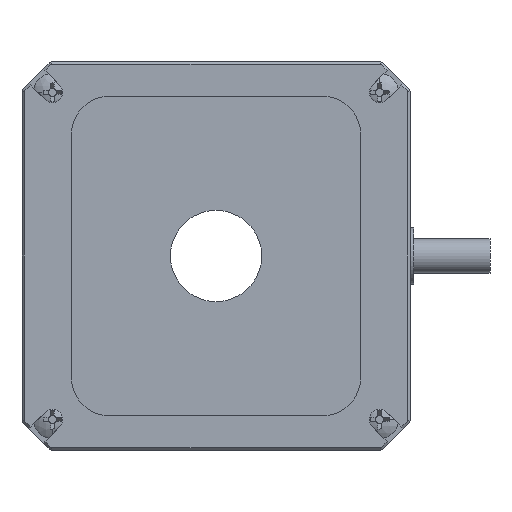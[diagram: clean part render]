
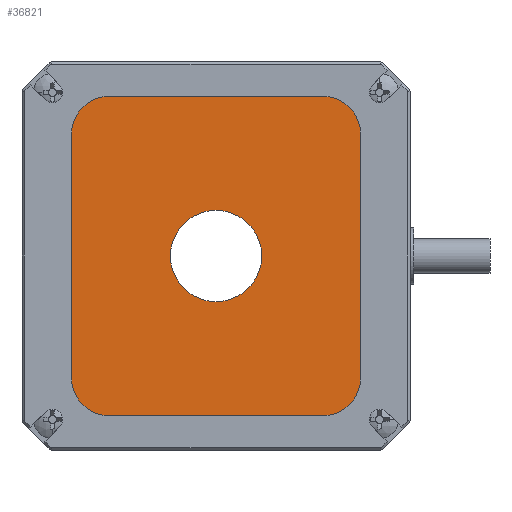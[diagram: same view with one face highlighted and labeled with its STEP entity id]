
A CAD part, front view. The second image highlights one B-rep face of the part: STEP entity #36821.
In plain terms, the highlighted planar face has unit normal (0, -1, 0).
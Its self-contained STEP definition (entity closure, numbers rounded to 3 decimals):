
#492 = CARTESIAN_POINT ( 'NONE',  ( -14., 0.2, 21. ) ) ;
#1181 = VECTOR ( 'NONE', #9567, 1000. ) ;
#1302 = DIRECTION ( 'NONE',  ( 0., 0., 1. ) ) ;
#2029 = VERTEX_POINT ( 'NONE', #492 ) ;
#2599 = DIRECTION ( 'NONE',  ( 0., 0., -1. ) ) ;
#4247 = AXIS2_PLACEMENT_3D ( 'NONE', #66175, #26682, #72762 ) ;
#4324 = CIRCLE ( 'NONE', #63729, 6. ) ;
#5115 = DIRECTION ( 'NONE',  ( 0., -1., 0. ) ) ;
#7712 = ORIENTED_EDGE ( 'NONE', *, *, #58043, .T. ) ;
#9567 = DIRECTION ( 'NONE',  ( -1., 0., 0. ) ) ;
#10361 = CARTESIAN_POINT ( 'NONE',  ( -19., 0.2, -16. ) ) ;
#11068 = CARTESIAN_POINT ( 'NONE',  ( 19., 0.2, 16. ) ) ;
#12774 = CARTESIAN_POINT ( 'NONE',  ( 14., 0.2, 16. ) ) ;
#14102 = CARTESIAN_POINT ( 'NONE',  ( 14., 0.2, -21. ) ) ;
#14162 = VECTOR ( 'NONE', #16793, 1000. ) ;
#15007 = CARTESIAN_POINT ( 'NONE',  ( 0., 0.2, 6. ) ) ;
#16158 = CARTESIAN_POINT ( 'NONE',  ( -19., 0.2, -21. ) ) ;
#16329 = DIRECTION ( 'NONE',  ( 0., -1., 0. ) ) ;
#16793 = DIRECTION ( 'NONE',  ( 0., 0., 1. ) ) ;
#18866 = VECTOR ( 'NONE', #77783, 1000. ) ;
#19062 = ORIENTED_EDGE ( 'NONE', *, *, #52263, .T. ) ;
#19455 = DIRECTION ( 'NONE',  ( 0., 0., 1. ) ) ;
#19639 = DIRECTION ( 'NONE',  ( 0., 1., 0. ) ) ;
#19797 = CIRCLE ( 'NONE', #32599, 5. ) ;
#23352 = AXIS2_PLACEMENT_3D ( 'NONE', #44616, #5115, #51241 ) ;
#26682 = DIRECTION ( 'NONE',  ( 0., -1., 0. ) ) ;
#27541 = CARTESIAN_POINT ( 'NONE',  ( 14., 0.2, 21. ) ) ;
#27657 = VERTEX_POINT ( 'NONE', #83393 ) ;
#29745 = EDGE_CURVE ( 'NONE', #67910, #40012, #59934, .T. ) ;
#31668 = LINE ( 'NONE', #49665, #14162 ) ;
#32391 = VERTEX_POINT ( 'NONE', #27541 ) ;
#32553 = PLANE ( 'NONE',  #35395 ) ;
#32599 = AXIS2_PLACEMENT_3D ( 'NONE', #80303, #40767, #1302 ) ;
#33067 = VECTOR ( 'NONE', #2599, 1000. ) ;
#33357 = AXIS2_PLACEMENT_3D ( 'NONE', #55796, #16329, #62441 ) ;
#34269 = VERTEX_POINT ( 'NONE', #82985 ) ;
#35395 = AXIS2_PLACEMENT_3D ( 'NONE', #59163, #19639, #65756 ) ;
#35829 = CARTESIAN_POINT ( 'NONE',  ( 19., 0.2, 21. ) ) ;
#36118 = ORIENTED_EDGE ( 'NONE', *, *, #29745, .F. ) ;
#36821 = ADVANCED_FACE ( 'NONE', ( #83760, #48702 ), #32553, .F. ) ;
#37504 = ORIENTED_EDGE ( 'NONE', *, *, #60463, .T. ) ;
#38090 = CARTESIAN_POINT ( 'NONE',  ( -19., 0.2, 16. ) ) ;
#38629 = VERTEX_POINT ( 'NONE', #11068 ) ;
#38716 = DIRECTION ( 'NONE',  ( 0., -1., 0. ) ) ;
#40012 = VERTEX_POINT ( 'NONE', #44204 ) ;
#40176 = EDGE_LOOP ( 'NONE', ( #7712, #66107, #49257, #50216, #61955, #19062, #37504, #74113 ) ) ;
#40767 = DIRECTION ( 'NONE',  ( 0., -1., 0. ) ) ;
#43826 = EDGE_LOOP ( 'NONE', ( #36118, #81602 ) ) ;
#44204 = CARTESIAN_POINT ( 'NONE',  ( 0., 0.2, -6. ) ) ;
#44616 = CARTESIAN_POINT ( 'NONE',  ( -14., 0.2, 16. ) ) ;
#46133 = EDGE_CURVE ( 'NONE', #40012, #67910, #4324, .T. ) ;
#46604 = EDGE_CURVE ( 'NONE', #32391, #2029, #75464, .T. ) ;
#48080 = VERTEX_POINT ( 'NONE', #14102 ) ;
#48702 = FACE_BOUND ( 'NONE', #43826, .T. ) ;
#49257 = ORIENTED_EDGE ( 'NONE', *, *, #62789, .T. ) ;
#49665 = CARTESIAN_POINT ( 'NONE',  ( 19., 0.2, -21. ) ) ;
#50216 = ORIENTED_EDGE ( 'NONE', *, *, #72900, .T. ) ;
#51241 = DIRECTION ( 'NONE',  ( 0., 0., 1. ) ) ;
#52263 = EDGE_CURVE ( 'NONE', #2029, #70727, #67063, .T. ) ;
#52711 = EDGE_CURVE ( 'NONE', #48080, #34269, #73230, .T. ) ;
#53178 = VERTEX_POINT ( 'NONE', #10361 ) ;
#53906 = LINE ( 'NONE', #64200, #18866 ) ;
#55796 = CARTESIAN_POINT ( 'NONE',  ( 14., 0.2, -16. ) ) ;
#56089 = AXIS2_PLACEMENT_3D ( 'NONE', #12774, #58986, #19455 ) ;
#58043 = EDGE_CURVE ( 'NONE', #27657, #48080, #53906, .T. ) ;
#58986 = DIRECTION ( 'NONE',  ( 0., -1., 0. ) ) ;
#59163 = CARTESIAN_POINT ( 'NONE',  ( 0., 0.2, 0. ) ) ;
#59934 = CIRCLE ( 'NONE', #4247, 6. ) ;
#60463 = EDGE_CURVE ( 'NONE', #70727, #53178, #68183, .T. ) ;
#61955 = ORIENTED_EDGE ( 'NONE', *, *, #46604, .T. ) ;
#62441 = DIRECTION ( 'NONE',  ( 0., 0., 1. ) ) ;
#62789 = EDGE_CURVE ( 'NONE', #34269, #38629, #31668, .T. ) ;
#63729 = AXIS2_PLACEMENT_3D ( 'NONE', #78296, #38716, #84893 ) ;
#64200 = CARTESIAN_POINT ( 'NONE',  ( 19., 0.2, -21. ) ) ;
#65756 = DIRECTION ( 'NONE',  ( 0., 0., 1. ) ) ;
#66107 = ORIENTED_EDGE ( 'NONE', *, *, #52711, .T. ) ;
#66161 = EDGE_CURVE ( 'NONE', #53178, #27657, #19797, .T. ) ;
#66175 = CARTESIAN_POINT ( 'NONE',  ( 0., 0.2, 0. ) ) ;
#67063 = CIRCLE ( 'NONE', #23352, 5. ) ;
#67910 = VERTEX_POINT ( 'NONE', #15007 ) ;
#68183 = LINE ( 'NONE', #16158, #33067 ) ;
#70727 = VERTEX_POINT ( 'NONE', #38090 ) ;
#72762 = DIRECTION ( 'NONE',  ( 0., 0., 1. ) ) ;
#72900 = EDGE_CURVE ( 'NONE', #38629, #32391, #73699, .T. ) ;
#73230 = CIRCLE ( 'NONE', #33357, 5. ) ;
#73699 = CIRCLE ( 'NONE', #56089, 5. ) ;
#74113 = ORIENTED_EDGE ( 'NONE', *, *, #66161, .T. ) ;
#75464 = LINE ( 'NONE', #35829, #1181 ) ;
#77783 = DIRECTION ( 'NONE',  ( 1., 0., 0. ) ) ;
#78296 = CARTESIAN_POINT ( 'NONE',  ( 0., 0.2, 0. ) ) ;
#80303 = CARTESIAN_POINT ( 'NONE',  ( -14., 0.2, -16. ) ) ;
#81602 = ORIENTED_EDGE ( 'NONE', *, *, #46133, .F. ) ;
#82985 = CARTESIAN_POINT ( 'NONE',  ( 19., 0.2, -16. ) ) ;
#83393 = CARTESIAN_POINT ( 'NONE',  ( -14., 0.2, -21. ) ) ;
#83760 = FACE_OUTER_BOUND ( 'NONE', #40176, .T. ) ;
#84893 = DIRECTION ( 'NONE',  ( 0., 0., 1. ) ) ;
